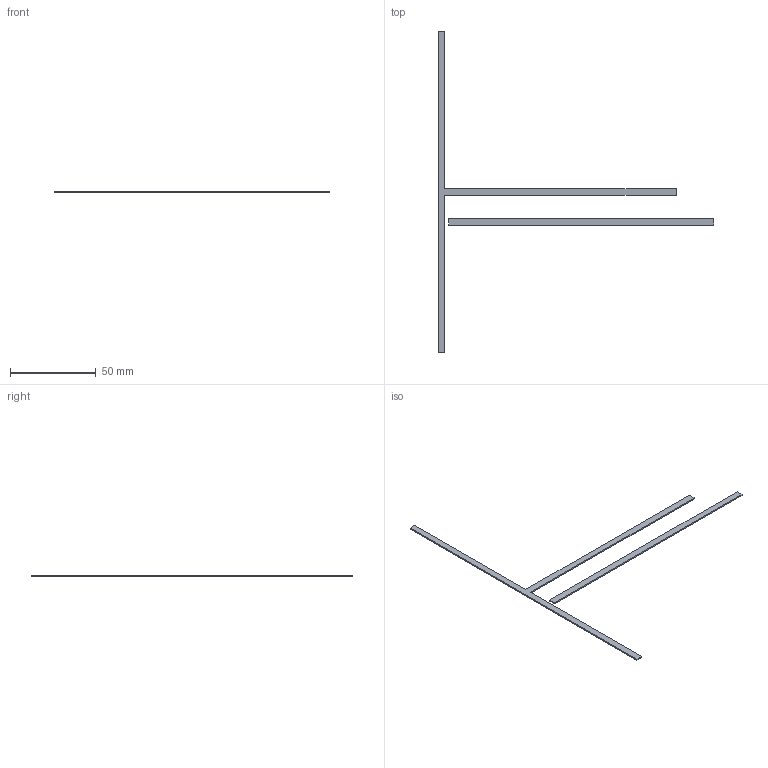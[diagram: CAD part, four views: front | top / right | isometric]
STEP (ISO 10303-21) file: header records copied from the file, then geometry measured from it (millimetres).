
FILE_DESCRIPTION(('STEP AP203'), '1');
FILE_NAME('ïîëîñêè äåêè', '', ('UNSPECIFIED'), ('UNSPECIFIED'), 'ASCON STEP Converter 1.3', 'ASCON Math Kernel', '');
FILE_SCHEMA(('CONFIG_CONTROL_DESIGN'));
Length unit declared in the file: millimetre
Bounding box: 161.16 x 187.58 x 0.8 mm (x, y, z)
Volume: 1528.3 mm3; surface area: 4597.8 mm2
Topology: 2 solids, 2 shells, 16 faces, 36 edges, 24 vertices
Faces by surface type: plane 16
Entity records: 618 total; most frequent: CARTESIAN_POINT 77, ORIENTED_EDGE 72, DIRECTION 70, EDGE_CURVE 36, LINE 36, VECTOR 36, VERTEX_POINT 24, COLOUR_RGB 18
